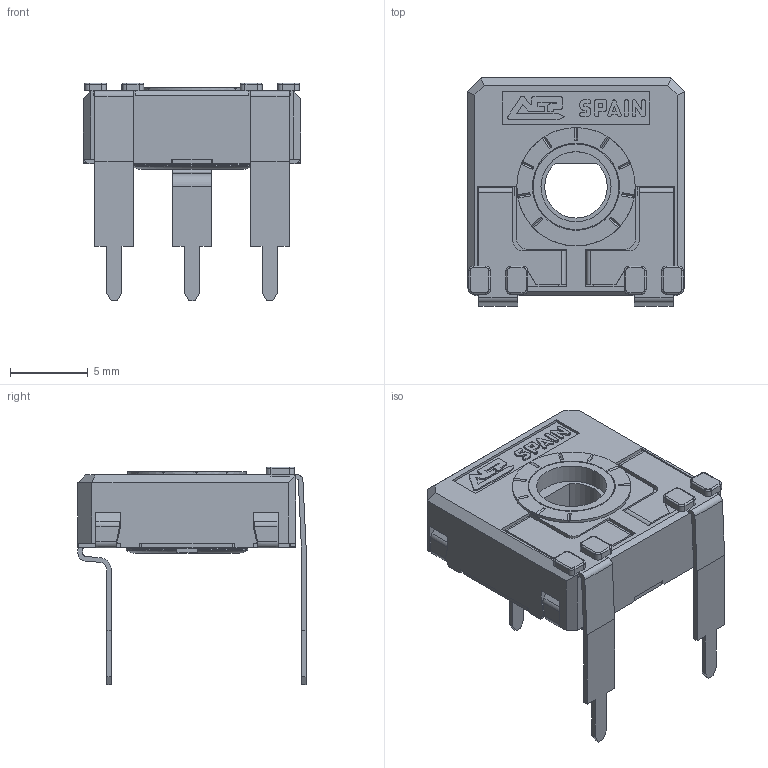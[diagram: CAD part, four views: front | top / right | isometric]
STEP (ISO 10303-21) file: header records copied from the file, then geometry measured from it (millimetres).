
FILE_DESCRIPTION(/* description */ (''),/* implementation_level */ '2;1');
FILE_NAME(/* name */ 'C:\Users\CEM\Desktop\ENVIAR\TRANSICION 3D CATALOGOS\RS14FVL12,5 RT-RO.stp',/* time_stamp */ '2025-12-10T10:21:35+01:00',/* author */ ('CEM'),/* organization */ (''),/* preprocessor_version */ 'ST-DEVELOPER v16.13',/* originating_system */ 'Autodesk Inventor 2018',/* authorisation */ '');
FILE_SCHEMA (('AUTOMOTIVE_DESIGN { 1 0 10303 214 3 1 1 }'));
Length unit declared in the file: millimetre
Products named in the file (1): CARCASA CA14 PGA
Bounding box: 14 x 14.65 x 14 mm (x, y, z)
Volume: 532.6 mm3; surface area: 1531.3 mm2
Topology: 1 solids, 1 shells, 677 faces, 1908 edges, 1228 vertices
Faces by surface type: plane 498, cylinder 142, torus 23, bspline 8, cone 6
Full cylindrical faces by diameter (mm): 4.5 x1, 5.5 x1, 5.6 x1, 5.752 x1, 6.8 x1, 7.6 x1
Entity records: 21952 total; most frequent: CARTESIAN_POINT 4008, ORIENTED_EDGE 3788, DIRECTION 3576, EDGE_CURVE 1894, LINE 1496, VECTOR 1496, VERTEX_POINT 1224, AXIS2_PLACEMENT_3D 1040
